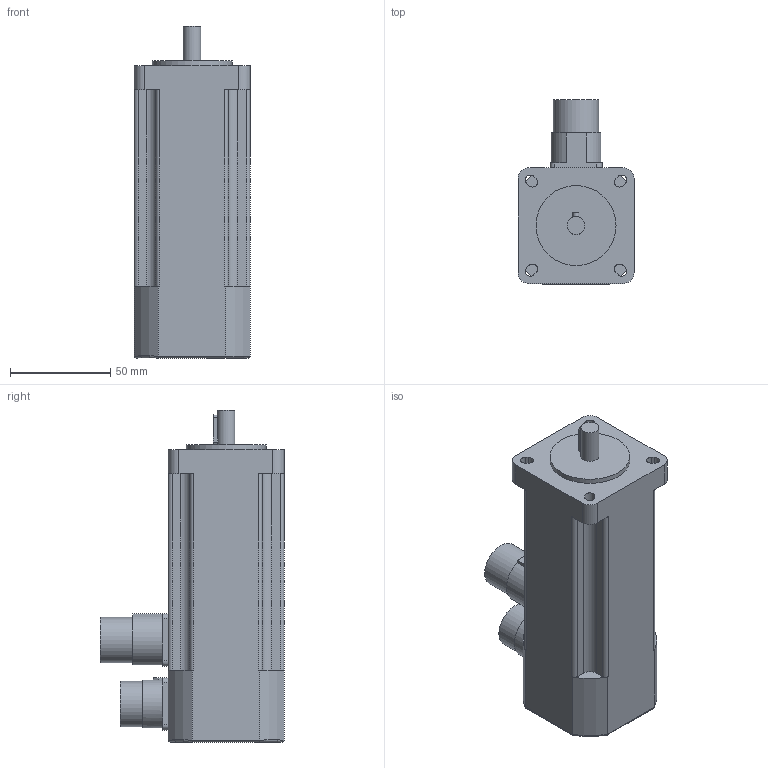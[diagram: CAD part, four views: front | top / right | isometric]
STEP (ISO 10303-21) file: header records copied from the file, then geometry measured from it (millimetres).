
FILE_DESCRIPTION(/* description */ (''),/* implementation_level */ '2;1');
FILE_NAME(/* name */ '\\Lafnas01\disegni\Archivi Lafert\3D\CAD 3D\MODELLI\Assiemi clienti\Serad\Modelli 3D Serad\B28I\Resolver\Res With Brake\B28D2Ixx4B050033.ipt.stp',/* time_stamp */ '2015-09-07T10:48:09+02:00',/* author */ ('Pastrello Ylenia'),/* organization */ (''),/* preprocessor_version */ 'ST-DEVELOPER v15.6',/* originating_system */ 'Autodesk Inventor 2015',/* authorisation */ '');
FILE_SCHEMA (('AUTOMOTIVE_DESIGN { 1 0 10303 214 3 1 1 }'));
Length unit declared in the file: millimetre
Products named in the file (1): B28D2Ixx4B050033
Bounding box: 58 x 92 x 166 mm (x, y, z)
Volume: 464506.6 mm3; surface area: 44832.4 mm2
Topology: 1 solids, 1 shells, 133 faces, 356 edges, 231 vertices
Faces by surface type: plane 71, cylinder 58, torus 4
Full cylindrical faces by diameter (mm): 9 x1, 22.7 x2, 24 x1, 40 x1
Entity records: 4247 total; most frequent: CARTESIAN_POINT 847, DIRECTION 719, ORIENTED_EDGE 696, EDGE_CURVE 347, AXIS2_PLACEMENT_3D 250, VERTEX_POINT 228, LINE 219, VECTOR 219
